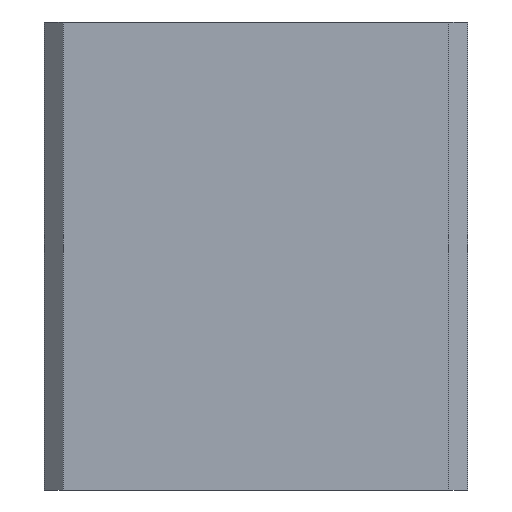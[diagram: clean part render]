
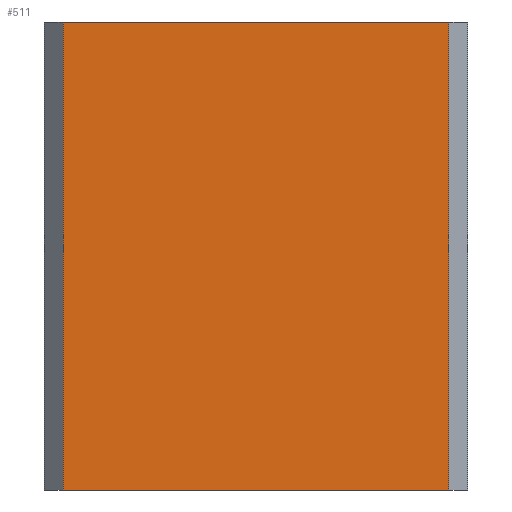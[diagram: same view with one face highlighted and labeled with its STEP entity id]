
A CAD part, front view. The second image highlights one B-rep face of the part: STEP entity #511.
In plain terms, the highlighted planar face has unit normal (0, -1, 0).
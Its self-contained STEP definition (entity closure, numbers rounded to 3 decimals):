
#29 = EDGE_CURVE ( 'NONE', #461, #469, #689, .T. ) ;
#32 = ORIENTED_EDGE ( 'NONE', *, *, #29, .T. ) ;
#40 = DIRECTION ( 'NONE',  ( 0., 1., 0. ) ) ;
#43 = PLANE ( 'NONE',  #124 ) ;
#108 = VECTOR ( 'NONE', #599, 1000. ) ;
#111 = DIRECTION ( 'NONE',  ( 1., 0., 0. ) ) ;
#124 = AXIS2_PLACEMENT_3D ( 'NONE', #276, #40, #325 ) ;
#151 = VERTEX_POINT ( 'NONE', #490 ) ;
#157 = CARTESIAN_POINT ( 'NONE',  ( -10.3, -11.3, 0. ) ) ;
#170 = CARTESIAN_POINT ( 'NONE',  ( -10.5, -11.3, 25. ) ) ;
#208 = VECTOR ( 'NONE', #111, 1000. ) ;
#211 = LINE ( 'NONE', #485, #108 ) ;
#276 = CARTESIAN_POINT ( 'NONE',  ( -10.5, -11.3, 25. ) ) ;
#284 = VERTEX_POINT ( 'NONE', #427 ) ;
#289 = ORIENTED_EDGE ( 'NONE', *, *, #709, .T. ) ;
#291 = LINE ( 'NONE', #170, #521 ) ;
#310 = CARTESIAN_POINT ( 'NONE',  ( -10.3, -11.3, 25. ) ) ;
#315 = VECTOR ( 'NONE', #415, 1000. ) ;
#321 = ORIENTED_EDGE ( 'NONE', *, *, #687, .F. ) ;
#325 = DIRECTION ( 'NONE',  ( 0., 0., 1. ) ) ;
#354 = EDGE_LOOP ( 'NONE', ( #289, #510, #321, #32 ) ) ;
#415 = DIRECTION ( 'NONE',  ( 0., 0., -1. ) ) ;
#427 = CARTESIAN_POINT ( 'NONE',  ( 10.3, -11.3, 25. ) ) ;
#461 = VERTEX_POINT ( 'NONE', #489 ) ;
#469 = VERTEX_POINT ( 'NONE', #157 ) ;
#485 = CARTESIAN_POINT ( 'NONE',  ( 10.3, -11.3, 25. ) ) ;
#489 = CARTESIAN_POINT ( 'NONE',  ( -10.3, -11.3, 25. ) ) ;
#490 = CARTESIAN_POINT ( 'NONE',  ( 10.3, -11.3, 0. ) ) ;
#502 = EDGE_CURVE ( 'NONE', #151, #284, #211, .T. ) ;
#509 = CARTESIAN_POINT ( 'NONE',  ( -10.5, -11.3, 0. ) ) ;
#510 = ORIENTED_EDGE ( 'NONE', *, *, #502, .T. ) ;
#511 = ADVANCED_FACE ( 'NONE', ( #708 ), #43, .F. ) ;
#521 = VECTOR ( 'NONE', #565, 1000. ) ;
#565 = DIRECTION ( 'NONE',  ( 1., 0., 0. ) ) ;
#599 = DIRECTION ( 'NONE',  ( 0., 0., 1. ) ) ;
#668 = LINE ( 'NONE', #509, #208 ) ;
#687 = EDGE_CURVE ( 'NONE', #461, #284, #291, .T. ) ;
#689 = LINE ( 'NONE', #310, #315 ) ;
#708 = FACE_OUTER_BOUND ( 'NONE', #354, .T. ) ;
#709 = EDGE_CURVE ( 'NONE', #469, #151, #668, .T. ) ;
